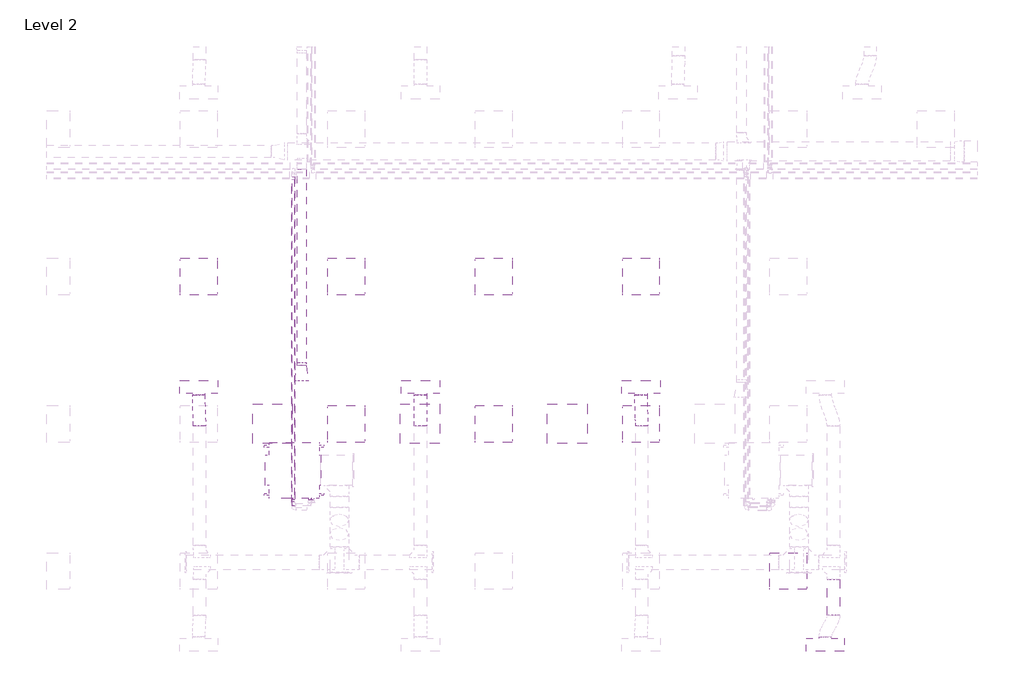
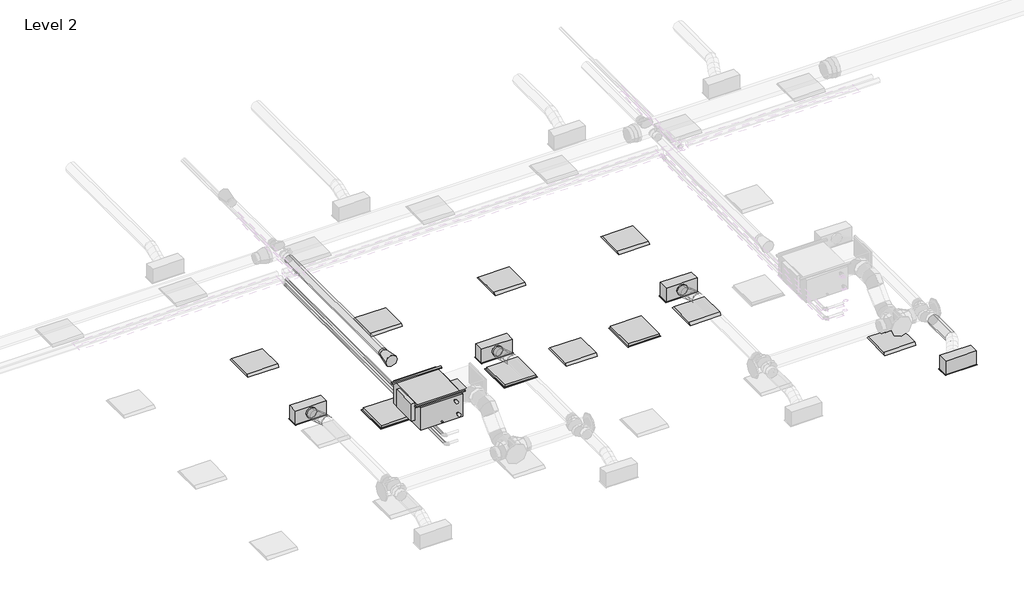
# One storey, part 6 of 26: 8 air terminals, 8 light fixtures, 5 duct segments, 2 pipe segments, 1 proxy.
"""IFC4 building model written with IfcOpenShell, lengths in millimetres."""

from ifc_helpers import new_model, si_unit, point, frame, frame_2d, origin, place, context, project, spatial, circle_curve, ellipse_curve, trimmed, segment, composite_curve, outline, extrude, transform, mapped, element, save
from ifc_brep_helpers import plane_surface, cylinder_surface, advanced_brep
from components import air_terminal_0d1c431e, return_grille_rectangular_hosted_standard_7b12617c, supply_diffuser_with_plenum_linear_slot_hosted_8c379eed, fan_coil_unit_ceiling_ducted_chw_376_lps_05d42c19, light_fixture_1c7c1157, light_fixture_b730b5ca

model = new_model("IFC4")

# Units and contexts
model_context = context("Model", 3, world=origin())
ifc_project = project(units=[si_unit("LENGTHUNIT", "METRE", prefix="MILLI")], contexts=[model_context])

# Site, building, storey
site = spatial("IfcSite", under=ifc_project)
building = spatial("IfcBuilding", under=site)
storey = spatial("IfcBuildingStorey", under=building, Name="Level 2", Elevation=7800.0)

# Air terminals
placement = place(None, origin())
air_terminal_shape = air_terminal_0d1c431e(model_context)
element("IfcAirTerminal", 1, ObjectType="Supply_Bell_Mouth_Grille : Supply_Bell_Mouth_Grille", at=placement, inside=storey, context=model_context, shape_type="MappedRepresentation", body=[
    mapped(air_terminal_shape, transform((18039.0080407, 5510.2561435, 11100.0), x_axis=(0.0, -1.0, 0.0), y_axis=(1.0, 0.0, 0.0), z_axis=(0.0, 0.0, 1.0))),
])
return_grille_rectangular_hosted_standard_shape = return_grille_rectangular_hosted_standard_7b12617c(model_context)
element("IfcAirTerminal", 2, ObjectType="Return Grille - Rectangular - Hosted : Standard", at=placement, inside=storey, context=model_context, shape_type="MappedRepresentation", body=[
    mapped(return_grille_rectangular_hosted_standard_shape, transform((17562.2000027, 4563.2000004, 10600.0), x_axis=(1.0, 0.0, 0.0), y_axis=(0.0, -1.0, 0.0), z_axis=(0.0, 0.0, -1.0))),
])
element("IfcAirTerminal", 3, ObjectType="Return Grille - Rectangular - Hosted : Standard", at=placement, inside=storey, context=model_context, shape_type="MappedRepresentation", body=[
    mapped(return_grille_rectangular_hosted_standard_shape, transform((19962.2000027, 4563.2000004, 10600.0), x_axis=(1.0, 0.0, 0.0), y_axis=(0.0, -1.0, 0.0), z_axis=(0.0, 0.0, -1.0))),
])
element("IfcAirTerminal", 4, ObjectType="Return Grille - Rectangular - Hosted : Standard", at=placement, inside=storey, context=model_context, shape_type="MappedRepresentation", body=[
    mapped(return_grille_rectangular_hosted_standard_shape, transform((22362.2000027, 4563.2000004, 10600.0), x_axis=(0.0, -1.0, 0.0), y_axis=(-1.0, 0.0, 0.0), z_axis=(0.0, 0.0, -1.0))),
])
supply_diffuser_with_plenum_linear_slot_hosted_shape = supply_diffuser_with_plenum_linear_slot_hosted_8c379eed(model_context)
element("IfcAirTerminal", 5, ObjectType="Supply Diffuser with Plenum - Linear Slot - Hosted : 24\" x 8\"-200 In Inlet  4-Slot", at=placement, inside=storey, context=model_context, shape_type="MappedRepresentation", body=[
    mapped(supply_diffuser_with_plenum_linear_slot_hosted_shape, transform((26562.2000027, 963.2000004, 10600.0), x_axis=(1.0, 0.0, 0.0), y_axis=(0.0, -1.0, 0.0), z_axis=(0.0, 0.0, -1.0))),
])
element("IfcAirTerminal", 6, ObjectType="Supply Diffuser with Plenum - Linear Slot - Hosted : 24\" x 8\"-200 In Inlet  4-Slot", at=placement, inside=storey, context=model_context, shape_type="MappedRepresentation", body=[
    mapped(supply_diffuser_with_plenum_linear_slot_hosted_shape, transform((16362.2000027, 5163.2000004, 10600.0), x_axis=(-1.0, 0.0, 0.0), y_axis=(0.0, 1.0, 0.0), z_axis=(0.0, 0.0, -1.0))),
])
element("IfcAirTerminal", 7, ObjectType="Supply Diffuser with Plenum - Linear Slot - Hosted : 24\" x 8\"-200 In Inlet  4-Slot", at=placement, inside=storey, context=model_context, shape_type="MappedRepresentation", body=[
    mapped(supply_diffuser_with_plenum_linear_slot_hosted_shape, transform((19973.9000022, 5163.2000004, 10600.0), x_axis=(-1.0, 0.0, 0.0), y_axis=(0.0, 1.0, 0.0), z_axis=(0.0, 0.0, -1.0))),
])
element("IfcAirTerminal", 8, ObjectType="Supply Diffuser with Plenum - Linear Slot - Hosted : 24\" x 8\"-200 In Inlet  4-Slot", at=placement, inside=storey, context=model_context, shape_type="MappedRepresentation", body=[
    mapped(supply_diffuser_with_plenum_linear_slot_hosted_shape, transform((23562.2000027, 5163.2000004, 10600.0), x_axis=(-1.0, 0.0, 0.0), y_axis=(0.0, 1.0, 0.0), z_axis=(0.0, 0.0, -1.0))),
])

# Proxy
fan_coil_unit_ceiling_ducted_chw_376_lps_shape = fan_coil_unit_ceiling_ducted_chw_376_lps_05d42c19(model_context)
element("IfcBuildingElementProxy", 9, Name="Fan Coil Unit - Ceiling Ducted - CHW : 376 LPS", ObjectType="Fan Coil Unit - Ceiling Ducted - CHW : 376 LPS", at=placement, inside=storey, context=model_context, shape_type="MappedRepresentation", body=[
    mapped(fan_coil_unit_ceiling_ducted_chw_376_lps_shape, transform((18321.2561025, 4263.2000004, 11022.3911538), x_axis=(0.0, -1.0, 0.0), y_axis=(1.0, 0.0, 0.0), z_axis=(0.0, 0.0, 1.0))),
])

# Duct segments
element("IfcDuctSegment", 10, ObjectType="DW144 Segmented Bend / Shoe Branch", at=placement, inside=storey, context=model_context, shape_type="SweptSolid", body=[
    extrude(outline(composite_curve([segment(trimmed(circle_curve(frame_2d((10872.2088531, 26693.9000022)), 100.0), [point((10872.2088531, 26593.9000022))], [point((10772.2088531, 26693.9000022))], False, "CARTESIAN"), True, "CONTINUOUS"), segment(trimmed(circle_curve(frame_2d((10872.2088531, 26693.9000022)), 100.0), [point((10772.2088531, 26693.9000022))], [point((10872.2088531, 26793.9000022))], False, "CARTESIAN"), True, "CONTINUOUS"), segment(trimmed(circle_curve(frame_2d((10872.2088531, 26693.9000022)), 100.0), [point((10872.2088531, 26793.9000022))], [point((10972.2088531, 26693.9000022))], False, "CARTESIAN"), True, "CONTINUOUS"), segment(trimmed(circle_curve(frame_2d((10872.2088531, 26693.9000022)), 100.0), [point((10972.2088531, 26693.9000022))], [point((10872.2088531, 26593.9000022))], False, "CARTESIAN"), True, "CONTINUOUS")], self_intersect=False)), frame((0.0, 1441.5018192, 0.0), z_axis=(0.0, 1.0, 0.0), x_axis=(0.0, 0.0, 1.0)), (0.0, 0.0, 1.0), 590.0),
])
element("IfcDuctSegment", 11, ObjectType="DW144 Segmented Bend / Shoe Branch", at=placement, inside=storey, context=model_context, shape_type="SweptSolid", body=[
    extrude(outline(composite_curve([segment(trimmed(circle_curve(frame_2d((11100.0, 18039.0080407)), 75.0), [point((11100.0, 17964.0080407))], [point((11025.0, 18039.0080407))], False, "CARTESIAN"), True, "CONTINUOUS"), segment(trimmed(circle_curve(frame_2d((11100.0, 18039.0080407)), 75.0), [point((11025.0, 18039.0080407))], [point((11100.0, 18114.0080407))], False, "CARTESIAN"), True, "CONTINUOUS"), segment(trimmed(circle_curve(frame_2d((11100.0, 18039.0080407)), 75.0), [point((11100.0, 18114.0080407))], [point((11175.0, 18039.0080407))], False, "CARTESIAN"), True, "CONTINUOUS"), segment(trimmed(circle_curve(frame_2d((11100.0, 18039.0080407)), 75.0), [point((11175.0, 18039.0080407))], [point((11100.0, 17964.0080407))], False, "CARTESIAN"), True, "CONTINUOUS")], self_intersect=False)), frame((0.0, 5510.2561435, 0.0), z_axis=(0.0, 1.0, 0.0), x_axis=(0.0, 0.0, 1.0)), (0.0, 0.0, 1.0), 3199.1601689),
])
element("IfcDuctSegment", 12, ObjectType="Flex - Round", at=placement, inside=storey, context=model_context, shape_type="AdvancedBrep", body=[
    advanced_brep(
    [(16273.9000022, 4531.5018192, 10872.2088531), (16373.9000022, 4531.5018192, 10772.2088531), (16473.9000022, 4531.5018192, 10872.2088531), (16373.9000022, 4531.5018192, 10972.2088531), (16273.9000022, 4545.0398748, 10872.2088531), (16373.9000022, 4537.729612, 10772.2088531), (16473.9000022, 4546.6519942, 10872.2088531), (16373.9000022, 4553.962257, 10972.2088531), (16262.2000027, 5034.3000004, 10754.4), (16362.2000027, 5034.3000004, 10854.4), (16462.2000027, 5034.3000004, 10754.4), (16362.2000027, 5034.3000004, 10654.4), (16272.0969471, 4656.1396088, 10854.0536514), (16372.3243089, 4634.8198875, 10756.3429867), (16472.0468075, 4660.8412095, 10853.5487883), (16371.8194457, 4682.1609309, 10951.2594529), (16268.0984043, 4779.8283707, 10813.7917909), (16368.5373668, 4751.9631047, 10718.2117629), (16468.0016006, 4785.9734489, 10812.8170622), (16367.5626381, 4813.8387149, 10908.3970903), (16264.0531974, 4904.9606101, 10773.0600649), (16364.2805591, 4883.6408888, 10675.3494002), (16464.0030578, 4909.6622108, 10772.5552017), (16363.775696, 4930.9819322, 10870.2658664), (16262.2000027, 5019.1498254, 10754.4), (16362.2000027, 5011.8395627, 10654.4), (16462.2000027, 5020.7619448, 10754.4), (16362.2000027, 5028.0722076, 10854.4)],
    [
        (0, 1, circle_curve(frame((16373.9000022, 4531.5018192, 10872.2088531), z_axis=(0.0, -1.0, 0.0), x_axis=(-1.0, 0.0, 0.0)), 100.0)),
        (1, 2, circle_curve(frame((16373.9000022, 4531.5018192, 10872.2088531), z_axis=(0.0, -1.0, 0.0), x_axis=(-1.0, 0.0, 0.0)), 100.0)),
        (2, 3, circle_curve(frame((16373.9000022, 4531.5018192, 10872.2088531), z_axis=(0.0, -1.0, 0.0), x_axis=(-1.0, 0.0, 0.0)), 100.0)),
        (3, 0, circle_curve(frame((16373.9000022, 4531.5018192, 10872.2088531), z_axis=(0.0, -1.0, 0.0), x_axis=(-1.0, 0.0, 0.0)), 100.0)),
        (0, 4),
        (4, 5, ellipse_curve(frame((16373.9000022, 4545.8459345, 10872.2088531), z_axis=(0.008033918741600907, -0.9966902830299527, 0.08089459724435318), x_axis=(-0.09850014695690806, -0.08129255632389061, -0.9918110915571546)), 100.3320708, 100.0)),
        (5, 1),
        (5, 6, ellipse_curve(frame((16373.9000022, 4545.8459345, 10872.2088531), z_axis=(0.008033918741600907, -0.9966902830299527, 0.08089459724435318), x_axis=(-0.09850014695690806, -0.08129255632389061, -0.9918110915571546)), 100.3320708, 100.0)),
        (6, 2),
        (6, 7, ellipse_curve(frame((16373.9000022, 4545.8459345, 10872.2088531), z_axis=(0.008033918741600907, -0.9966902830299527, 0.08089459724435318), x_axis=(-0.09850014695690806, -0.08129255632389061, -0.9918110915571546)), 100.3320708, 100.0)),
        (7, 3),
        (7, 4, ellipse_curve(frame((16373.9000022, 4545.8459345, 10872.2088531), z_axis=(0.008033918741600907, -0.9966902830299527, 0.08089459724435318), x_axis=(-0.09850014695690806, -0.08129255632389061, -0.9918110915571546)), 100.3320708, 100.0)),
        (8, 9, circle_curve(frame((16362.2000027, 5034.3000004, 10754.4), z_axis=(0.0, 1.0, 0.0), x_axis=(-1.0, 0.0, 0.0)), 100.0)),
        (9, 10, circle_curve(frame((16362.2000027, 5034.3000004, 10754.4), z_axis=(0.0, 1.0, 0.0), x_axis=(-1.0, 0.0, 0.0)), 100.0)),
        (10, 11, circle_curve(frame((16362.2000027, 5034.3000004, 10754.4), z_axis=(0.0, 1.0, 0.0), x_axis=(-1.0, 0.0, 0.0)), 100.0)),
        (11, 8, circle_curve(frame((16362.2000027, 5034.3000004, 10754.4), z_axis=(0.0, 1.0, 0.0), x_axis=(-1.0, 0.0, 0.0)), 100.0)),
        (4, 12),
        (12, 13, ellipse_curve(frame((16372.0718773, 4658.4904092, 10853.8012198), z_axis=(0.023438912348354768, -0.9714680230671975, 0.23600952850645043), x_axis=(-0.0960075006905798, -0.23717057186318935, -0.9667123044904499)), 100.2947714, 100.0)),
        (13, 5),
        (13, 14, ellipse_curve(frame((16372.0718773, 4658.4904092, 10853.8012198), z_axis=(0.023438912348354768, -0.9714680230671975, 0.23600952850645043), x_axis=(-0.0960075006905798, -0.23717057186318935, -0.9667123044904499)), 100.2947714, 100.0)),
        (14, 6),
        (14, 15, ellipse_curve(frame((16372.0718773, 4658.4904092, 10853.8012198), z_axis=(0.023438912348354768, -0.9714680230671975, 0.23600952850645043), x_axis=(-0.0960075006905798, -0.23717057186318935, -0.9667123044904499)), 100.2947714, 100.0)),
        (15, 7),
        (15, 12, ellipse_curve(frame((16372.0718773, 4658.4904092, 10853.8012198), z_axis=(0.023438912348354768, -0.9714680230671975, 0.23600952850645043), x_axis=(-0.0960075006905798, -0.23717057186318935, -0.9667123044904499)), 100.2947714, 100.0)),
        (12, 16),
        (16, 17, circle_curve(frame((16368.0500024, 4782.9009098, 10813.3044266), z_axis=(0.030725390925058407, -0.950442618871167, 0.30937805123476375), x_axis=(-0.999515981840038, -0.030725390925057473, 0.0048736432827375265)), 100.0)),
        (17, 13),
        (17, 18, circle_curve(frame((16368.0500024, 4782.9009098, 10813.3044266), z_axis=(0.030725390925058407, -0.950442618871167, 0.30937805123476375), x_axis=(-0.999515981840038, -0.030725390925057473, 0.0048736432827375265)), 100.0)),
        (18, 14),
        (18, 19, circle_curve(frame((16368.0500024, 4782.9009098, 10813.3044266), z_axis=(0.030725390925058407, -0.950442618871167, 0.30937805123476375), x_axis=(-0.999515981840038, -0.030725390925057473, 0.0048736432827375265)), 100.0)),
        (19, 15),
        (19, 16, circle_curve(frame((16368.0500024, 4782.9009098, 10813.3044266), z_axis=(0.030725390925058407, -0.950442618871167, 0.30937805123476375), x_axis=(-0.999515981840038, -0.030725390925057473, 0.0048736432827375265)), 100.0)),
        (16, 20),
        (20, 21, ellipse_curve(frame((16364.0281276, 4907.3114105, 10772.8076333), z_axis=(0.023438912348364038, -0.971468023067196, 0.23600952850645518), x_axis=(0.09600750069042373, 0.23717057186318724, 0.9667123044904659)), 100.2947714, 100.0)),
        (21, 17),
        (21, 22, ellipse_curve(frame((16364.0281276, 4907.3114105, 10772.8076333), z_axis=(0.023438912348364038, -0.971468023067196, 0.23600952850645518), x_axis=(0.09600750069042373, 0.23717057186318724, 0.9667123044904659)), 100.2947714, 100.0)),
        (22, 18),
        (22, 23, ellipse_curve(frame((16364.0281276, 4907.3114105, 10772.8076333), z_axis=(0.023438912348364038, -0.971468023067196, 0.23600952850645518), x_axis=(0.09600750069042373, 0.23717057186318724, 0.9667123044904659)), 100.2947714, 100.0)),
        (23, 19),
        (23, 20, ellipse_curve(frame((16364.0281276, 4907.3114105, 10772.8076333), z_axis=(0.023438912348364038, -0.971468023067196, 0.23600952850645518), x_axis=(0.09600750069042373, 0.23717057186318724, 0.9667123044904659)), 100.2947714, 100.0)),
        (20, 24),
        (24, 25, ellipse_curve(frame((16362.2000027, 5019.9558851, 10754.4), z_axis=(0.008033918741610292, -0.9966902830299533, 0.08089459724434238), x_axis=(0.0985001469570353, 0.08129255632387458, 0.9918110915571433)), 100.3320708, 100.0)),
        (25, 21),
        (25, 26, ellipse_curve(frame((16362.2000027, 5019.9558851, 10754.4), z_axis=(0.008033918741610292, -0.9966902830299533, 0.08089459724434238), x_axis=(0.0985001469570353, 0.08129255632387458, 0.9918110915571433)), 100.3320708, 100.0)),
        (26, 22),
        (26, 27, ellipse_curve(frame((16362.2000027, 5019.9558851, 10754.4), z_axis=(0.008033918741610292, -0.9966902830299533, 0.08089459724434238), x_axis=(0.0985001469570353, 0.08129255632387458, 0.9918110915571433)), 100.3320708, 100.0)),
        (27, 23),
        (27, 24, ellipse_curve(frame((16362.2000027, 5019.9558851, 10754.4), z_axis=(0.008033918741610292, -0.9966902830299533, 0.08089459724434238), x_axis=(0.0985001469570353, 0.08129255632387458, 0.9918110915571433)), 100.3320708, 100.0)),
        (24, 8),
        (11, 25),
        (10, 26),
        (9, 27),
    ],
    [
        plane_surface(frame((16273.9000022, 4531.5018192, 10872.2088531), z_axis=(0.0, -1.0, 0.0), x_axis=(0.0, 0.0, 1.0))),
        cylinder_surface(frame((16373.9000022, 4531.5018192, 10872.2088531), z_axis=(0.0, -1.0, 0.0), x_axis=(-1.0, 0.0, 0.0)), 100.0),
        plane_surface(frame((16262.2000027, 5034.3000004, 10754.4), z_axis=(0.0, 1.0, 0.0), x_axis=(0.0, 0.0, 1.0))),
        cylinder_surface(frame((16373.9000022, 4545.8459345, 10872.2088531), z_axis=(0.0160146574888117, -0.9867830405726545, 0.1612537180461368), x_axis=(-0.9998709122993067, -0.0160146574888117, 0.0012998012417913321)), 100.0),
        cylinder_surface(frame((16372.0718773, 4658.4904092, 10853.8012198), z_axis=(0.030725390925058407, -0.950442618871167, 0.30937805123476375), x_axis=(-0.999515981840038, -0.030725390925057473, 0.0048736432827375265)), 100.0),
        cylinder_surface(frame((16368.0500024, 4782.9009098, 10813.3044266), z_axis=(0.030725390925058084, -0.9504426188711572, 0.3093780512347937), x_axis=(-0.999515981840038, -0.030725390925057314, 0.00487364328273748)), 100.0),
        cylinder_surface(frame((16364.0281276, 4907.3114105, 10772.8076333), z_axis=(0.016014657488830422, -0.9867830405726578, 0.16125371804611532), x_axis=(-0.9998709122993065, -0.01601465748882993, 0.0012998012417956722)), 100.0),
        cylinder_surface(frame((16362.2000027, 5019.9558851, 10754.4), z_axis=(0.0, -1.0, 0.0), x_axis=(-1.0, 0.0, 0.0)), 100.0),
    ],
    [
        (0, [[1, 2, 3, 4]]),
        (1, [[-1, 5, 6, 7]]),
        (1, [[-2, -7, 8, 9]]),
        (1, [[-3, -9, 10, 11]]),
        (1, [[-4, -11, 12, -5]]),
        (2, [[13, 14, 15, 16]]),
        (3, [[-6, 17, 18, 19]]),
        (3, [[-8, -19, 20, 21]]),
        (3, [[-10, -21, 22, 23]]),
        (3, [[-12, -23, 24, -17]]),
        (4, [[-18, 25, 26, 27]]),
        (4, [[-20, -27, 28, 29]]),
        (4, [[-22, -29, 30, 31]]),
        (4, [[-24, -31, 32, -25]]),
        (5, [[-26, 33, 34, 35]]),
        (5, [[-28, -35, 36, 37]]),
        (5, [[-30, -37, 38, 39]]),
        (5, [[-32, -39, 40, -33]]),
        (6, [[-34, 41, 42, 43]]),
        (6, [[-36, -43, 44, 45]]),
        (6, [[-38, -45, 46, 47]]),
        (6, [[-40, -47, 48, -41]]),
        (7, [[-42, 49, -16, 50]]),
        (7, [[-44, -50, -15, 51]]),
        (7, [[-46, -51, -14, 52]]),
        (7, [[-48, -52, -13, -49]]),
    ],
),
])
element("IfcDuctSegment", 13, ObjectType="Flex - Round", at=placement, inside=storey, context=model_context, shape_type="AdvancedBrep", body=[
    advanced_brep(
    [(19873.9000022, 4531.5018192, 10872.2088531), (19973.9000022, 4531.5018192, 10772.2088531), (20073.9000022, 4531.5018192, 10872.2088531), (19973.9000022, 4531.5018192, 10972.2088531), (19873.9000022, 4545.8487649, 10872.2088531), (19973.9000022, 4537.7308336, 10772.2088531), (20073.9000022, 4545.8487649, 10872.2088531), (19973.9000022, 4553.9666963, 10972.2088531), (19873.9000022, 5034.3000004, 10754.4), (19973.9000022, 5034.3000004, 10854.4), (20073.9000022, 5034.3000004, 10754.4), (19973.9000022, 5034.3000004, 10654.4), (19873.9000022, 4658.4779853, 10853.8012198), (19973.9000022, 4634.8007072, 10756.3441723), (20073.9000022, 4658.4779853, 10853.8012198), (19973.9000022, 4682.1552634, 10951.2582674), (19873.9000022, 4782.9009098, 10813.3044266), (19973.9000022, 4751.9512855, 10718.21436), (20073.9000022, 4782.9009098, 10813.3044266), (19973.9000022, 4813.8505341, 10908.3944931), (19873.9000022, 4907.3238344, 10772.8076333), (19973.9000022, 4883.6465563, 10675.3505857), (20073.9000022, 4907.3238344, 10772.8076333), (19973.9000022, 4931.0011125, 10870.2646809), (19873.9000022, 5019.9530547, 10754.4), (19973.9000022, 5011.8351234, 10654.4), (20073.9000022, 5019.9530547, 10754.4), (19973.9000022, 5028.070986, 10854.4)],
    [
        (0, 1, circle_curve(frame((19973.9000022, 4531.5018192, 10872.2088531), z_axis=(0.0, -1.0, 0.0), x_axis=(-1.0, 0.0, 0.0)), 100.0)),
        (1, 2, circle_curve(frame((19973.9000022, 4531.5018192, 10872.2088531), z_axis=(0.0, -1.0, 0.0), x_axis=(-1.0, 0.0, 0.0)), 100.0)),
        (2, 3, circle_curve(frame((19973.9000022, 4531.5018192, 10872.2088531), z_axis=(0.0, -1.0, 0.0), x_axis=(-1.0, 0.0, 0.0)), 100.0)),
        (3, 0, circle_curve(frame((19973.9000022, 4531.5018192, 10872.2088531), z_axis=(0.0, -1.0, 0.0), x_axis=(-1.0, 0.0, 0.0)), 100.0)),
        (0, 4),
        (4, 5, ellipse_curve(frame((19973.9000022, 4545.8487649, 10872.2088531), z_axis=(0.0, -0.9967211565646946, 0.08091313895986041), x_axis=(0.0, -0.08091313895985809, -0.9967211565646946)), 100.328963, 100.0)),
        (5, 1),
        (5, 6, ellipse_curve(frame((19973.9000022, 4545.8487649, 10872.2088531), z_axis=(0.0, -0.9967211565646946, 0.08091313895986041), x_axis=(0.0, -0.08091313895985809, -0.9967211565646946)), 100.328963, 100.0)),
        (6, 2),
        (6, 7, ellipse_curve(frame((19973.9000022, 4545.8487649, 10872.2088531), z_axis=(0.0, -0.9967211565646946, 0.08091313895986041), x_axis=(0.0, -0.08091313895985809, -0.9967211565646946)), 100.328963, 100.0)),
        (7, 3),
        (7, 4, ellipse_curve(frame((19973.9000022, 4545.8487649, 10872.2088531), z_axis=(0.0, -0.9967211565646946, 0.08091313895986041), x_axis=(0.0, -0.08091313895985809, -0.9967211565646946)), 100.328963, 100.0)),
        (8, 9, circle_curve(frame((19973.9000022, 5034.3000004, 10754.4), z_axis=(0.0, 1.0, 0.0), x_axis=(-1.0, 0.0, 0.0)), 100.0)),
        (9, 10, circle_curve(frame((19973.9000022, 5034.3000004, 10754.4), z_axis=(0.0, 1.0, 0.0), x_axis=(-1.0, 0.0, 0.0)), 100.0)),
        (10, 11, circle_curve(frame((19973.9000022, 5034.3000004, 10754.4), z_axis=(0.0, 1.0, 0.0), x_axis=(-1.0, 0.0, 0.0)), 100.0)),
        (11, 8, circle_curve(frame((19973.9000022, 5034.3000004, 10754.4), z_axis=(0.0, 1.0, 0.0), x_axis=(-1.0, 0.0, 0.0)), 100.0)),
        (4, 12),
        (12, 13, ellipse_curve(frame((19973.9000022, 4658.4779853, 10853.8012198), z_axis=(0.0, -0.9717328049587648, 0.23608336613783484), x_axis=(0.0, -0.23608336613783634, -0.9717328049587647)), 100.2920217, 100.0)),
        (13, 5),
        (13, 14, ellipse_curve(frame((19973.9000022, 4658.4779853, 10853.8012198), z_axis=(0.0, -0.9717328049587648, 0.23608336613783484), x_axis=(0.0, -0.23608336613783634, -0.9717328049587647)), 100.2920217, 100.0)),
        (14, 6),
        (14, 15, ellipse_curve(frame((19973.9000022, 4658.4779853, 10853.8012198), z_axis=(0.0, -0.9717328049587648, 0.23608336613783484), x_axis=(0.0, -0.23608336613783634, -0.9717328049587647)), 100.2920217, 100.0)),
        (15, 7),
        (15, 12, ellipse_curve(frame((19973.9000022, 4658.4779853, 10853.8012198), z_axis=(0.0, -0.9717328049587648, 0.23608336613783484), x_axis=(0.0, -0.23608336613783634, -0.9717328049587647)), 100.2920217, 100.0)),
        (12, 16),
        (16, 17, circle_curve(frame((19973.9000022, 4782.9009098, 10813.3044266), z_axis=(0.0, -0.9509006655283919, 0.3094962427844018), x_axis=(-1.0, 0.0, 0.0)), 100.0)),
        (17, 13),
        (17, 18, circle_curve(frame((19973.9000022, 4782.9009098, 10813.3044266), z_axis=(0.0, -0.9509006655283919, 0.3094962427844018), x_axis=(-1.0, 0.0, 0.0)), 100.0)),
        (18, 14),
        (18, 19, circle_curve(frame((19973.9000022, 4782.9009098, 10813.3044266), z_axis=(0.0, -0.9509006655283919, 0.3094962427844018), x_axis=(-1.0, 0.0, 0.0)), 100.0)),
        (19, 15),
        (19, 16, circle_curve(frame((19973.9000022, 4782.9009098, 10813.3044266), z_axis=(0.0, -0.9509006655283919, 0.3094962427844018), x_axis=(-1.0, 0.0, 0.0)), 100.0)),
        (16, 20),
        (20, 21, ellipse_curve(frame((19973.9000022, 4907.3238344, 10772.8076333), z_axis=(0.0, -0.9717328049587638, 0.2360833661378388), x_axis=(0.0, 0.236083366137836, 0.9717328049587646)), 100.2920217, 100.0)),
        (21, 17),
        (21, 22, ellipse_curve(frame((19973.9000022, 4907.3238344, 10772.8076333), z_axis=(0.0, -0.9717328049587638, 0.2360833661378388), x_axis=(0.0, 0.236083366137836, 0.9717328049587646)), 100.2920217, 100.0)),
        (22, 18),
        (22, 23, ellipse_curve(frame((19973.9000022, 4907.3238344, 10772.8076333), z_axis=(0.0, -0.9717328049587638, 0.2360833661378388), x_axis=(0.0, 0.236083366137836, 0.9717328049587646)), 100.2920217, 100.0)),
        (23, 19),
        (23, 20, ellipse_curve(frame((19973.9000022, 4907.3238344, 10772.8076333), z_axis=(0.0, -0.9717328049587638, 0.2360833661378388), x_axis=(0.0, 0.236083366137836, 0.9717328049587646)), 100.2920217, 100.0)),
        (20, 24),
        (24, 25, ellipse_curve(frame((19973.9000022, 5019.9530547, 10754.4), z_axis=(0.0, -0.9967211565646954, 0.0809131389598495), x_axis=(0.0, 0.08091313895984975, 0.9967211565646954)), 100.328963, 100.0)),
        (25, 21),
        (25, 26, ellipse_curve(frame((19973.9000022, 5019.9530547, 10754.4), z_axis=(0.0, -0.9967211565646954, 0.0809131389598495), x_axis=(0.0, 0.08091313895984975, 0.9967211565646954)), 100.328963, 100.0)),
        (26, 22),
        (26, 27, ellipse_curve(frame((19973.9000022, 5019.9530547, 10754.4), z_axis=(0.0, -0.9967211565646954, 0.0809131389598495), x_axis=(0.0, 0.08091313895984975, 0.9967211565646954)), 100.328963, 100.0)),
        (27, 23),
        (27, 24, ellipse_curve(frame((19973.9000022, 5019.9530547, 10754.4), z_axis=(0.0, -0.9967211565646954, 0.0809131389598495), x_axis=(0.0, 0.08091313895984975, 0.9967211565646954)), 100.328963, 100.0)),
        (24, 8),
        (11, 25),
        (10, 26),
        (9, 27),
    ],
    [
        plane_surface(frame((19873.9000022, 4531.5018192, 10872.2088531), z_axis=(0.0, -1.0, 0.0), x_axis=(0.0, 0.0, 1.0))),
        cylinder_surface(frame((19973.9000022, 4531.5018192, 10872.2088531), z_axis=(0.0, -1.0, 0.0), x_axis=(-1.0, 0.0, 0.0)), 100.0),
        plane_surface(frame((19873.9000022, 5034.3000004, 10754.4), z_axis=(0.0, 1.0, 0.0), x_axis=(0.0, 0.0, 1.0))),
        cylinder_surface(frame((19973.9000022, 4545.8487649, 10872.2088531), z_axis=(0.0, -0.9869061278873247, 0.16129567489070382), x_axis=(-1.0, 0.0, 0.0)), 100.0),
        cylinder_surface(frame((19973.9000022, 4658.4779853, 10853.8012198), z_axis=(0.0, -0.9509006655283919, 0.3094962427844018), x_axis=(-1.0, 0.0, 0.0)), 100.0),
        cylinder_surface(frame((19973.9000022, 4782.9009098, 10813.3044266), z_axis=(0.0, -0.9509006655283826, 0.3094962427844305), x_axis=(-1.0, 0.0, 0.0)), 100.0),
        cylinder_surface(frame((19973.9000022, 4907.3238344, 10772.8076333), z_axis=(0.0, -0.9869061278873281, 0.16129567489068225), x_axis=(-1.0, 0.0, 0.0)), 100.0),
        cylinder_surface(frame((19973.9000022, 5019.9530547, 10754.4), z_axis=(0.0, -1.0, 0.0), x_axis=(-1.0, 0.0, 0.0)), 100.0),
    ],
    [
        (0, [[1, 2, 3, 4]]),
        (1, [[-1, 5, 6, 7]]),
        (1, [[-2, -7, 8, 9]]),
        (1, [[-3, -9, 10, 11]]),
        (1, [[-4, -11, 12, -5]]),
        (2, [[13, 14, 15, 16]]),
        (3, [[-6, 17, 18, 19]]),
        (3, [[-8, -19, 20, 21]]),
        (3, [[-10, -21, 22, 23]]),
        (3, [[-12, -23, 24, -17]]),
        (4, [[-18, 25, 26, 27]]),
        (4, [[-20, -27, 28, 29]]),
        (4, [[-22, -29, 30, 31]]),
        (4, [[-24, -31, 32, -25]]),
        (5, [[-26, 33, 34, 35]]),
        (5, [[-28, -35, 36, 37]]),
        (5, [[-30, -37, 38, 39]]),
        (5, [[-32, -39, 40, -33]]),
        (6, [[-34, 41, 42, 43]]),
        (6, [[-36, -43, 44, 45]]),
        (6, [[-38, -45, 46, 47]]),
        (6, [[-40, -47, 48, -41]]),
        (7, [[-42, 49, -16, 50]]),
        (7, [[-44, -50, -15, 51]]),
        (7, [[-46, -51, -14, 52]]),
        (7, [[-48, -52, -13, -49]]),
    ],
),
])
element("IfcDuctSegment", 14, ObjectType="Flex - Round", at=placement, inside=storey, context=model_context, shape_type="AdvancedBrep", body=[
    advanced_brep(
    [(23473.9000022, 4531.5018192, 10872.2088531), (23573.9000022, 4531.5018192, 10772.2088531), (23673.9000022, 4531.5018192, 10872.2088531), (23573.9000022, 4531.5018192, 10972.2088531), (23473.9000022, 4545.0398748, 10872.2088531), (23573.9000022, 4537.729612, 10772.2088531), (23673.9000022, 4546.6519942, 10872.2088531), (23573.9000022, 4553.962257, 10972.2088531), (23462.2000027, 5034.3000004, 10754.4), (23562.2000027, 5034.3000004, 10854.4), (23662.2000027, 5034.3000004, 10754.4), (23562.2000027, 5034.3000004, 10654.4), (23472.0969471, 4656.1396088, 10854.0536514), (23572.3243089, 4634.8198875, 10756.3429867), (23672.0468075, 4660.8412095, 10853.5487883), (23571.8194457, 4682.1609309, 10951.2594529), (23468.0984043, 4779.8283707, 10813.7917909), (23568.5373668, 4751.9631047, 10718.2117629), (23668.0016006, 4785.9734489, 10812.8170622), (23567.5626381, 4813.8387149, 10908.3970903), (23464.0531974, 4904.9606101, 10773.0600649), (23564.2805591, 4883.6408888, 10675.3494002), (23664.0030578, 4909.6622108, 10772.5552017), (23563.775696, 4930.9819322, 10870.2658664), (23462.2000027, 5019.1498254, 10754.4), (23562.2000027, 5011.8395627, 10654.4), (23662.2000027, 5020.7619448, 10754.4), (23562.2000027, 5028.0722076, 10854.4)],
    [
        (0, 1, circle_curve(frame((23573.9000022, 4531.5018192, 10872.2088531), z_axis=(0.0, -1.0, 0.0), x_axis=(-1.0, 0.0, 0.0)), 100.0)),
        (1, 2, circle_curve(frame((23573.9000022, 4531.5018192, 10872.2088531), z_axis=(0.0, -1.0, 0.0), x_axis=(-1.0, 0.0, 0.0)), 100.0)),
        (2, 3, circle_curve(frame((23573.9000022, 4531.5018192, 10872.2088531), z_axis=(0.0, -1.0, 0.0), x_axis=(-1.0, 0.0, 0.0)), 100.0)),
        (3, 0, circle_curve(frame((23573.9000022, 4531.5018192, 10872.2088531), z_axis=(0.0, -1.0, 0.0), x_axis=(-1.0, 0.0, 0.0)), 100.0)),
        (0, 4),
        (4, 5, ellipse_curve(frame((23573.9000022, 4545.8459345, 10872.2088531), z_axis=(0.008033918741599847, -0.9966902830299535, 0.08089459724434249), x_axis=(-0.09850014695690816, -0.08129255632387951, -0.9918110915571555)), 100.3320708, 100.0)),
        (5, 1),
        (5, 6, ellipse_curve(frame((23573.9000022, 4545.8459345, 10872.2088531), z_axis=(0.008033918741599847, -0.9966902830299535, 0.08089459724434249), x_axis=(-0.09850014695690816, -0.08129255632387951, -0.9918110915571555)), 100.3320708, 100.0)),
        (6, 2),
        (6, 7, ellipse_curve(frame((23573.9000022, 4545.8459345, 10872.2088531), z_axis=(0.008033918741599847, -0.9966902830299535, 0.08089459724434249), x_axis=(-0.09850014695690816, -0.08129255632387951, -0.9918110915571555)), 100.3320708, 100.0)),
        (7, 3),
        (7, 4, ellipse_curve(frame((23573.9000022, 4545.8459345, 10872.2088531), z_axis=(0.008033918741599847, -0.9966902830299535, 0.08089459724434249), x_axis=(-0.09850014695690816, -0.08129255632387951, -0.9918110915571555)), 100.3320708, 100.0)),
        (8, 9, circle_curve(frame((23562.2000027, 5034.3000004, 10754.4), z_axis=(0.0, 1.0, 0.0), x_axis=(-1.0, 0.0, 0.0)), 100.0)),
        (9, 10, circle_curve(frame((23562.2000027, 5034.3000004, 10754.4), z_axis=(0.0, 1.0, 0.0), x_axis=(-1.0, 0.0, 0.0)), 100.0)),
        (10, 11, circle_curve(frame((23562.2000027, 5034.3000004, 10754.4), z_axis=(0.0, 1.0, 0.0), x_axis=(-1.0, 0.0, 0.0)), 100.0)),
        (11, 8, circle_curve(frame((23562.2000027, 5034.3000004, 10754.4), z_axis=(0.0, 1.0, 0.0), x_axis=(-1.0, 0.0, 0.0)), 100.0)),
        (4, 12),
        (12, 13, ellipse_curve(frame((23572.0718773, 4658.4904092, 10853.8012198), z_axis=(0.02343891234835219, -0.9714680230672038, 0.23600952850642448), x_axis=(-0.09600750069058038, -0.23717057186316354, -0.9667123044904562)), 100.2947714, 100.0)),
        (13, 5),
        (13, 14, ellipse_curve(frame((23572.0718773, 4658.4904092, 10853.8012198), z_axis=(0.02343891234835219, -0.9714680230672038, 0.23600952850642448), x_axis=(-0.09600750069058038, -0.23717057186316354, -0.9667123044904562)), 100.2947714, 100.0)),
        (14, 6),
        (14, 15, ellipse_curve(frame((23572.0718773, 4658.4904092, 10853.8012198), z_axis=(0.02343891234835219, -0.9714680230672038, 0.23600952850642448), x_axis=(-0.09600750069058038, -0.23717057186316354, -0.9667123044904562)), 100.2947714, 100.0)),
        (15, 7),
        (15, 12, ellipse_curve(frame((23572.0718773, 4658.4904092, 10853.8012198), z_axis=(0.02343891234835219, -0.9714680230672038, 0.23600952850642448), x_axis=(-0.09600750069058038, -0.23717057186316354, -0.9667123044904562)), 100.2947714, 100.0)),
        (12, 16),
        (16, 17, circle_curve(frame((23568.0500024, 4782.9009098, 10813.3044266), z_axis=(0.030725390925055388, -0.950442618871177, 0.30937805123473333), x_axis=(-0.9995159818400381, -0.030725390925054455, 0.0048736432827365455)), 100.0)),
        (17, 13),
        (17, 18, circle_curve(frame((23568.0500024, 4782.9009098, 10813.3044266), z_axis=(0.030725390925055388, -0.950442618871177, 0.30937805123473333), x_axis=(-0.9995159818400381, -0.030725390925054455, 0.0048736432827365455)), 100.0)),
        (18, 14),
        (18, 19, circle_curve(frame((23568.0500024, 4782.9009098, 10813.3044266), z_axis=(0.030725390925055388, -0.950442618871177, 0.30937805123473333), x_axis=(-0.9995159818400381, -0.030725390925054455, 0.0048736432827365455)), 100.0)),
        (19, 15),
        (19, 16, circle_curve(frame((23568.0500024, 4782.9009098, 10813.3044266), z_axis=(0.030725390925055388, -0.950442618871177, 0.30937805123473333), x_axis=(-0.9995159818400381, -0.030725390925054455, 0.0048736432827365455)), 100.0)),
        (16, 20),
        (20, 21, ellipse_curve(frame((23564.0281276, 4907.3114105, 10772.8076333), z_axis=(0.023438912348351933, -0.9714680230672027, 0.23600952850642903), x_axis=(0.09600750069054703, 0.2371705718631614, 0.96671230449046)), 100.2947714, 100.0)),
        (21, 17),
        (21, 22, ellipse_curve(frame((23564.0281276, 4907.3114105, 10772.8076333), z_axis=(0.023438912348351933, -0.9714680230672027, 0.23600952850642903), x_axis=(0.09600750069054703, 0.2371705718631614, 0.96671230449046)), 100.2947714, 100.0)),
        (22, 18),
        (22, 23, ellipse_curve(frame((23564.0281276, 4907.3114105, 10772.8076333), z_axis=(0.023438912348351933, -0.9714680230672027, 0.23600952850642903), x_axis=(0.09600750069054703, 0.2371705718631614, 0.96671230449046)), 100.2947714, 100.0)),
        (23, 19),
        (23, 20, ellipse_curve(frame((23564.0281276, 4907.3114105, 10772.8076333), z_axis=(0.023438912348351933, -0.9714680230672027, 0.23600952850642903), x_axis=(0.09600750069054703, 0.2371705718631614, 0.96671230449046)), 100.2947714, 100.0)),
        (20, 24),
        (24, 25, ellipse_curve(frame((23562.2000027, 5019.9558851, 10754.4), z_axis=(0.008033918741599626, -0.9966902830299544, 0.08089459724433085), x_axis=(0.0985001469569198, 0.08129255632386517, 0.9918110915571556)), 100.3320708, 100.0)),
        (25, 21),
        (25, 26, ellipse_curve(frame((23562.2000027, 5019.9558851, 10754.4), z_axis=(0.008033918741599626, -0.9966902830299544, 0.08089459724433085), x_axis=(0.0985001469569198, 0.08129255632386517, 0.9918110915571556)), 100.3320708, 100.0)),
        (26, 22),
        (26, 27, ellipse_curve(frame((23562.2000027, 5019.9558851, 10754.4), z_axis=(0.008033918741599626, -0.9966902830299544, 0.08089459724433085), x_axis=(0.0985001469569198, 0.08129255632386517, 0.9918110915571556)), 100.3320708, 100.0)),
        (27, 23),
        (27, 24, ellipse_curve(frame((23562.2000027, 5019.9558851, 10754.4), z_axis=(0.008033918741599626, -0.9966902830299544, 0.08089459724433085), x_axis=(0.0985001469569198, 0.08129255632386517, 0.9918110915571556)), 100.3320708, 100.0)),
        (24, 8),
        (11, 25),
        (10, 26),
        (9, 27),
    ],
    [
        plane_surface(frame((23473.9000022, 4531.5018192, 10872.2088531), z_axis=(0.0, -1.0, 0.0), x_axis=(0.0, 0.0, 1.0))),
        cylinder_surface(frame((23573.9000022, 4531.5018192, 10872.2088531), z_axis=(0.0, -1.0, 0.0), x_axis=(-1.0, 0.0, 0.0)), 100.0),
        plane_surface(frame((23462.2000027, 5034.3000004, 10754.4), z_axis=(0.0, 1.0, 0.0), x_axis=(0.0, 0.0, 1.0))),
        cylinder_surface(frame((23573.9000022, 4545.8459345, 10872.2088531), z_axis=(0.016014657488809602, -0.9867830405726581, 0.16125371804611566), x_axis=(-0.9998709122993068, -0.016014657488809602, 0.001299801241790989)), 100.0),
        cylinder_surface(frame((23572.0718773, 4658.4904092, 10853.8012198), z_axis=(0.030725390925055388, -0.950442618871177, 0.30937805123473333), x_axis=(-0.9995159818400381, -0.030725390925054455, 0.0048736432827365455)), 100.0),
        cylinder_surface(frame((23568.0500024, 4782.9009098, 10813.3044266), z_axis=(0.03072539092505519, -0.9504426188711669, 0.3093780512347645), x_axis=(-0.9995159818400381, -0.030725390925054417, 0.004873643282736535)), 100.0),
        cylinder_surface(frame((23564.0281276, 4907.3114105, 10772.8076333), z_axis=(0.01601465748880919, -0.9867830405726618, 0.1612537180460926), x_axis=(-0.9998709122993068, -0.016014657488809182, 0.0012998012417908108)), 100.0),
        cylinder_surface(frame((23562.2000027, 5019.9558851, 10754.4), z_axis=(0.0, -1.0, 0.0), x_axis=(-1.0, 0.0, 0.0)), 100.0),
    ],
    [
        (0, [[1, 2, 3, 4]]),
        (1, [[-1, 5, 6, 7]]),
        (1, [[-2, -7, 8, 9]]),
        (1, [[-3, -9, 10, 11]]),
        (1, [[-4, -11, 12, -5]]),
        (2, [[13, 14, 15, 16]]),
        (3, [[-6, 17, 18, 19]]),
        (3, [[-8, -19, 20, 21]]),
        (3, [[-10, -21, 22, 23]]),
        (3, [[-12, -23, 24, -17]]),
        (4, [[-18, 25, 26, 27]]),
        (4, [[-20, -27, 28, 29]]),
        (4, [[-22, -29, 30, 31]]),
        (4, [[-24, -31, 32, -25]]),
        (5, [[-26, 33, 34, 35]]),
        (5, [[-28, -35, 36, 37]]),
        (5, [[-30, -37, 38, 39]]),
        (5, [[-32, -39, 40, -33]]),
        (6, [[-34, 41, 42, 43]]),
        (6, [[-36, -43, 44, 45]]),
        (6, [[-38, -45, 46, 47]]),
        (6, [[-40, -47, 48, -41]]),
        (7, [[-42, 49, -16, 50]]),
        (7, [[-44, -50, -15, 51]]),
        (7, [[-46, -51, -14, 52]]),
        (7, [[-48, -52, -13, -49]]),
    ],
),
])

# Light fixtures
light_fixture_shape = light_fixture_1c7c1157(model_context)
element("IfcLightFixture", 15, ObjectType="ELEKTRA Plain Recessed Lighting Fixture : 24\" x 24\" - 230", at=placement, inside=storey, context=model_context, shape_type="MappedRepresentation", body=[
    mapped(light_fixture_shape, transform((25662.2000027, 1863.2000004, 10600.0), x_axis=(1.0, 0.0, 0.0), y_axis=(0.0, -1.0, 0.0), z_axis=(0.0, 0.0, -1.0))),
])
element("IfcLightFixture", 16, ObjectType="ELEKTRA Plain Recessed Lighting Fixture : 24\" x 24\" - 230", at=placement, inside=storey, context=model_context, shape_type="MappedRepresentation", body=[
    mapped(light_fixture_shape, transform((23262.2000027, 6663.2000004, 10600.0), x_axis=(1.0, 0.0, 0.0), y_axis=(0.0, -1.0, 0.0), z_axis=(0.0, 0.0, -1.0))),
])
element("IfcLightFixture", 17, ObjectType="ELEKTRA Plain Recessed Lighting Fixture : 24\" x 24\" - 230", at=placement, inside=storey, context=model_context, shape_type="MappedRepresentation", body=[
    mapped(light_fixture_shape, transform((20862.2000027, 4263.2000004, 10600.0), x_axis=(1.0, 0.0, 0.0), y_axis=(0.0, -1.0, 0.0), z_axis=(0.0, 0.0, -1.0))),
])
element("IfcLightFixture", 18, ObjectType="ELEKTRA Plain Recessed Lighting Fixture : 24\" x 24\" - 230", at=placement, inside=storey, context=model_context, shape_type="MappedRepresentation", body=[
    mapped(light_fixture_shape, transform((20862.2000027, 6663.2000004, 10600.0), x_axis=(1.0, 0.0, 0.0), y_axis=(0.0, -1.0, 0.0), z_axis=(0.0, 0.0, -1.0))),
])
element("IfcLightFixture", 19, ObjectType="ELEKTRA Plain Recessed Lighting Fixture : 24\" x 24\" - 230", at=placement, inside=storey, context=model_context, shape_type="MappedRepresentation", body=[
    mapped(light_fixture_shape, transform((18462.2000027, 6663.2000004, 10600.0), x_axis=(1.0, 0.0, 0.0), y_axis=(0.0, -1.0, 0.0), z_axis=(0.0, 0.0, -1.0))),
])
element("IfcLightFixture", 20, ObjectType="ELEKTRA Plain Recessed Lighting Fixture : 24\" x 24\" - 230", at=placement, inside=storey, context=model_context, shape_type="MappedRepresentation", body=[
    mapped(light_fixture_shape, transform((16062.2000027, 6663.2000004, 10600.0), x_axis=(1.0, 0.0, 0.0), y_axis=(0.0, -1.0, 0.0), z_axis=(0.0, 0.0, -1.0))),
])
light_fixture_2_shape = light_fixture_b730b5ca(model_context)
element("IfcLightFixture", 21, ObjectType="ELEKTRA EM Recessed Lighting Fixture : 24\" x 24\" - 230", at=placement, inside=storey, context=model_context, shape_type="MappedRepresentation", body=[
    mapped(light_fixture_2_shape, transform((23262.2000027, 4263.2000004, 10600.0), x_axis=(1.0, 0.0, 0.0), y_axis=(0.0, -1.0, 0.0), z_axis=(0.0, 0.0, -1.0))),
])
element("IfcLightFixture", 22, ObjectType="ELEKTRA EM Recessed Lighting Fixture : 24\" x 24\" - 230", at=placement, inside=storey, context=model_context, shape_type="MappedRepresentation", body=[
    mapped(light_fixture_2_shape, transform((18462.2000027, 4263.2000004, 10600.0), x_axis=(1.0, 0.0, 0.0), y_axis=(0.0, -1.0, 0.0), z_axis=(0.0, 0.0, -1.0))),
])

# Pipe segments
element("IfcPipeSegment", 23, ObjectType="Carbon Steel - Threaded", at=placement, inside=storey, context=model_context, shape_type="SweptSolid", body=[
    extrude(outline(composite_curve([segment(trimmed(circle_curve(frame_2d((10834.6193977, 17898.7529576)), 21.45), [point((10834.6193977, 17920.2029576))], [point((10856.0693977, 17898.7529576))], False, "CARTESIAN"), True, "CONTINUOUS"), segment(trimmed(circle_curve(frame_2d((10834.6193977, 17898.7529576)), 21.45), [point((10856.0693977, 17898.7529576))], [point((10834.6193977, 17877.3029576))], False, "CARTESIAN"), True, "CONTINUOUS"), segment(trimmed(circle_curve(frame_2d((10834.6193977, 17898.7529576)), 21.45), [point((10834.6193977, 17877.3029576))], [point((10813.1693977, 17898.7529576))], False, "CARTESIAN"), True, "CONTINUOUS"), segment(trimmed(circle_curve(frame_2d((10834.6193977, 17898.7529576)), 21.45), [point((10813.1693977, 17898.7529576))], [point((10834.6193977, 17920.2029576))], False, "CARTESIAN"), True, "CONTINUOUS")], self_intersect=False)), frame((0.0, 3291.7427522, 0.0), z_axis=(0.0, 1.0, 0.0), x_axis=(0.0, 0.0, 1.0)), (0.0, 0.0, 1.0), 5251.9190391),
])
element("IfcPipeSegment", 24, ObjectType="Carbon Steel - Threaded", at=placement, inside=storey, context=model_context, shape_type="SweptSolid", body=[
    extrude(outline(composite_curve([segment(trimmed(circle_curve(frame_2d((10693.9343179, 17903.0774681)), 21.45), [point((10693.9343179, 17881.6274681))], [point((10672.4843179, 17903.0774681))], False, "CARTESIAN"), True, "CONTINUOUS"), segment(trimmed(circle_curve(frame_2d((10693.9343179, 17903.0774681)), 21.45), [point((10672.4843179, 17903.0774681))], [point((10693.9343179, 17924.5274681))], False, "CARTESIAN"), True, "CONTINUOUS"), segment(trimmed(circle_curve(frame_2d((10693.9343179, 17903.0774681)), 21.45), [point((10693.9343179, 17924.5274681))], [point((10715.3843179, 17903.0774681))], False, "CARTESIAN"), True, "CONTINUOUS"), segment(trimmed(circle_curve(frame_2d((10693.9343179, 17903.0774681)), 21.45), [point((10715.3843179, 17903.0774681))], [point((10693.9343179, 17881.6274681))], False, "CARTESIAN"), True, "CONTINUOUS")], self_intersect=False)), frame((0.0, 3222.232951, 0.0), z_axis=(0.0, 1.0, 0.0), x_axis=(0.0, 0.0, 1.0)), (0.0, 0.0, 1.0), 5368.3868039),
])

save(model, "model.ifc")
